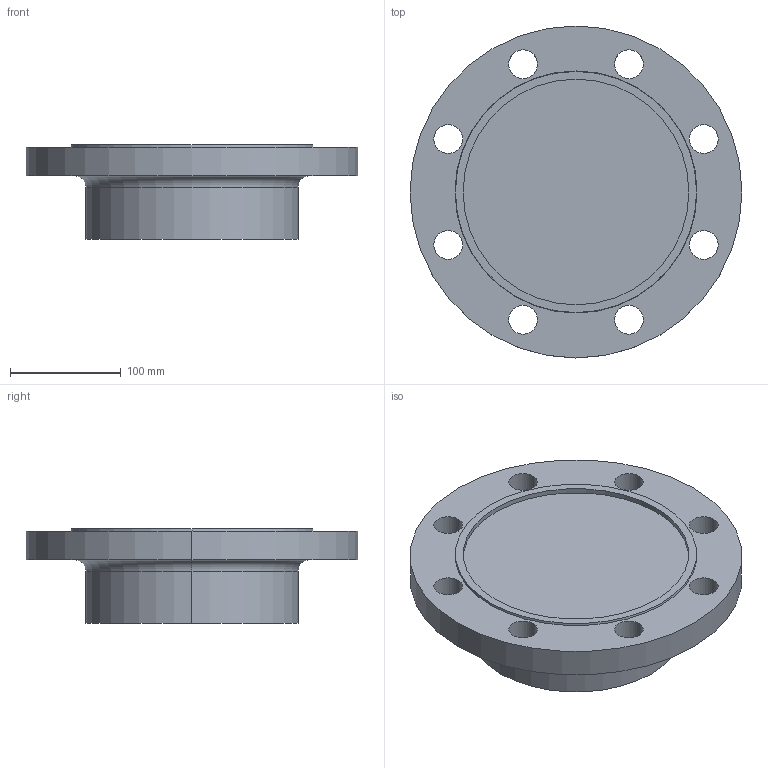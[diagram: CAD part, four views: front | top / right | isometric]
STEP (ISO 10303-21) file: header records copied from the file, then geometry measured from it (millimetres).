
FILE_DESCRIPTION (( 'STEP AP214' ), '1' );
FILE_NAME ('PN40 DN150 Type 21(i) - Type F Face.STEP', '2019-01-04T21:54:17', ( '' ), ( '' ), 'SwSTEP 2.0', 'SolidWorks 2019', '' );
FILE_SCHEMA (( 'AUTOMOTIVE_DESIGN' ));
Length unit declared in the file: millimetre
Products named in the file (1): PN40 DN150 Type 21(i) - Type F Face
Bounding box: 300 x 300 x 85 mm (x, y, z)
Volume: 3318769.6 mm3; surface area: 210243.3 mm2
Topology: 1 solids, 1 shells, 31 faces, 76 edges, 50 vertices
Faces by surface type: cylinder 22, plane 5, torus 2, cone 2
Entity records: 1012 total; most frequent: DIRECTION 192, CARTESIAN_POINT 158, ORIENTED_EDGE 152, AXIS2_PLACEMENT_3D 84, EDGE_CURVE 76, CIRCLE 52, EDGE_LOOP 50, VERTEX_POINT 50
